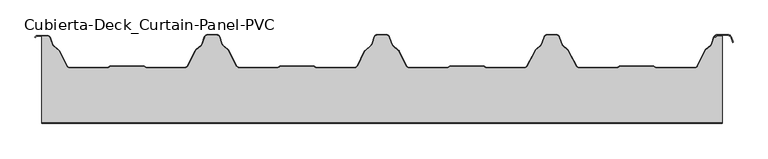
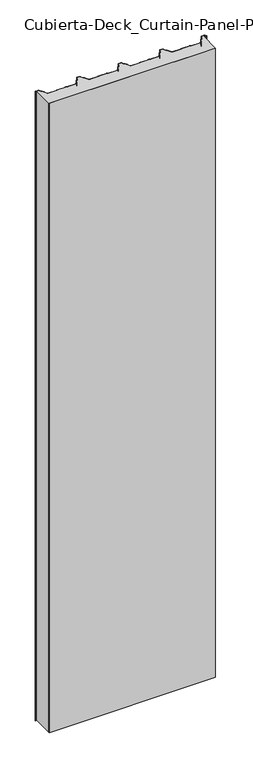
"""IFC4 building model written with IfcOpenShell, lengths in millimetres: plate geometry, Cubierta-Deck_Curtain-Panel-PVC : ACH_Cubierta-Deck_MW_80 mm."""

from ifc_helpers import new_model, si_unit, point, frame_2d, origin, origin_with_axes, place, context, project, spatial, polyline, circle_curve, trimmed, segment, composite_curve, outline, extrude, source, transform, mapped, element, save


def cubierta_deck_curtain_panel_pvc_9965c7ad(model_context):
    return source(origin(), model_context, "Body", "SweptSolid", [
        extrude(outline(composite_curve([segment(polyline([(-349.0135941, -47.2718753), (-348.3934384, -47.892031)]), True, "CONTINUOUS"), segment(trimmed(circle_curve(frame_2d((-346.2014073, -45.7)), 3.1), [point((-348.3934384, -47.892031))], [point((-346.2014073, -48.8))], True, "CARTESIAN"), True, "CONTINUOUS"), segment(polyline([(-346.2014073, -48.8), (-289.4061861, -48.8)]), True, "CONTINUOUS"), segment(trimmed(circle_curve(frame_2d((-289.4061861, -44.5)), 4.3), [point((-289.4061861, -48.8))], [point((-285.5884085, -46.4785284))], True, "CARTESIAN"), True, "CONTINUOUS"), segment(polyline([(-285.5884085, -46.4785284), (-273.6825876, -23.505001)]), True, "CONTINUOUS"), segment(trimmed(circle_curve(frame_2d((-271.1078074, -24.8393573)), 2.9), [point((-273.6825876, -23.505001))], [point((-273.017236, -22.6566795))], False, "CARTESIAN"), True, "CONTINUOUS"), segment(polyline([(-273.017236, -22.6566795), (-265.2497907, -15.8616403)]), True, "CONTINUOUS"), segment(trimmed(circle_curve(frame_2d((-267.290904, -13.5284329)), 3.1), [point((-265.2497907, -15.8616403))], [point((-264.3739053, -14.5777749))], True, "CARTESIAN"), True, "CONTINUOUS"), segment(polyline([(-264.3739053, -14.5777749), (-260.2266586, -3.0491088)]), True, "CONTINUOUS"), segment(trimmed(circle_curve(frame_2d((-257.0273697, -4.2)), 3.4), [point((-260.2266586, -3.0491088))], [point((-257.0273697, -0.8))], False, "CARTESIAN"), True, "CONTINUOUS"), segment(polyline([(-257.0273697, -0.8), (-242.6920972, -0.8)]), True, "CONTINUOUS"), segment(trimmed(circle_curve(frame_2d((-242.6920972, -4.2)), 3.4), [point((-242.6920972, -0.8))], [point((-239.4928083, -3.0491088))], False, "CARTESIAN"), True, "CONTINUOUS"), segment(polyline([(-239.4928083, -3.0491088), (-235.3455616, -14.5777749)]), True, "CONTINUOUS"), segment(trimmed(circle_curve(frame_2d((-232.4285629, -13.5284329)), 3.1), [point((-235.3455616, -14.5777749))], [point((-234.4696761, -15.8616403))], True, "CARTESIAN"), True, "CONTINUOUS"), segment(polyline([(-234.4696761, -15.8616403), (-226.7022309, -22.6566795)]), True, "CONTINUOUS"), segment(trimmed(circle_curve(frame_2d((-228.6116595, -24.8393573)), 2.9), [point((-226.7022309, -22.6566795))], [point((-226.0368792, -23.505001))], False, "CARTESIAN"), True, "CONTINUOUS"), segment(polyline([(-226.0368792, -23.505001), (-214.1310583, -46.4785284)]), True, "CONTINUOUS"), segment(trimmed(circle_curve(frame_2d((-210.3132808, -44.5)), 4.3), [point((-214.1310583, -46.4785284))], [point((-210.3132808, -48.8))], True, "CARTESIAN"), True, "CONTINUOUS"), segment(polyline([(-210.3132808, -48.8), (-153.5333867, -48.8)]), True, "CONTINUOUS"), segment(trimmed(circle_curve(frame_2d((-153.5333867, -45.7)), 3.1), [point((-153.5333867, -48.8))], [point((-151.3413557, -47.892031))], True, "CARTESIAN"), True, "CONTINUOUS"), segment(polyline([(-151.3413557, -47.892031), (-150.7212, -47.2718753)]), True, "CONTINUOUS"), segment(trimmed(circle_curve(frame_2d((-149.0481053, -50.0020238)), 3.2020238), [point((-150.7212, -47.2718753))], [point((-149.0481053, -46.8))], False, "CARTESIAN"), True, "CONTINUOUS"), segment(polyline([(-149.0481053, -46.8), (-101.2020159, -46.8)]), True, "CONTINUOUS"), segment(trimmed(circle_curve(frame_2d((-101.2020159, -50.0020238)), 3.2020238), [point((-101.2020159, -46.8))], [point((-99.5289212, -47.2718753))], False, "CARTESIAN"), True, "CONTINUOUS"), segment(polyline([(-99.5289212, -47.2718753), (-98.9087655, -47.892031)]), True, "CONTINUOUS"), segment(trimmed(circle_curve(frame_2d((-96.7167345, -45.7)), 3.1), [point((-98.9087655, -47.892031))], [point((-96.7167345, -48.8))], True, "CARTESIAN"), True, "CONTINUOUS"), segment(polyline([(-96.7167345, -48.8), (-39.9215133, -48.8)]), True, "CONTINUOUS"), segment(trimmed(circle_curve(frame_2d((-39.9215133, -44.5)), 4.3), [point((-39.9215133, -48.8))], [point((-36.0707148, -46.4134657))], True, "CARTESIAN"), True, "CONTINUOUS"), segment(polyline([(-36.0707148, -46.4134657), (-25.2060392, -24.5485969)]), True, "CONTINUOUS"), segment(trimmed(circle_curve(frame_2d((-22.6089891, -25.8390738)), 2.9), [point((-25.2060392, -24.5485969))], [point((-24.5354625, -23.6714252))], False, "CARTESIAN"), True, "CONTINUOUS"), segment(polyline([(-24.5354625, -23.6714252), (-15.7323582, -15.8477646)]), True, "CONTINUOUS"), segment(trimmed(circle_curve(frame_2d((-17.7916919, -13.530623)), 3.1), [point((-15.7323582, -15.8477646))], [point((-14.8746932, -14.579965))], True, "CARTESIAN"), True, "CONTINUOUS"), segment(polyline([(-14.8746932, -14.579965), (-10.7266586, -3.0491088)]), True, "CONTINUOUS"), segment(trimmed(circle_curve(frame_2d((-7.5273697, -4.2)), 3.4), [point((-10.7266586, -3.0491088))], [point((-7.5273697, -0.8))], False, "CARTESIAN"), True, "CONTINUOUS"), segment(polyline([(-7.5273697, -0.8), (6.8079028, -0.8)]), True, "CONTINUOUS"), segment(trimmed(circle_curve(frame_2d((6.8079028, -4.2)), 3.4), [point((6.8079028, -0.8))], [point((10.0071917, -3.0491088))], False, "CARTESIAN"), True, "CONTINUOUS"), segment(polyline([(10.0071917, -3.0491088), (14.1552263, -14.579965)]), True, "CONTINUOUS"), segment(trimmed(circle_curve(frame_2d((17.072225, -13.530623)), 3.1), [point((14.1552263, -14.579965))], [point((15.0128913, -15.8477646))], True, "CARTESIAN"), True, "CONTINUOUS"), segment(polyline([(15.0128913, -15.8477646), (23.8159956, -23.6714252)]), True, "CONTINUOUS"), segment(trimmed(circle_curve(frame_2d((21.8895222, -25.8390738)), 2.9), [point((23.8159956, -23.6714252))], [point((24.4865724, -24.5485969))], False, "CARTESIAN"), True, "CONTINUOUS"), segment(polyline([(24.4865724, -24.5485969), (35.3512479, -46.4134657)]), True, "CONTINUOUS"), segment(trimmed(circle_curve(frame_2d((39.2020464, -44.5)), 4.3), [point((35.3512479, -46.4134657))], [point((39.2020464, -48.8))], True, "CARTESIAN"), True, "CONTINUOUS"), segment(polyline([(39.2020464, -48.8), (95.9819404, -48.8)]), True, "CONTINUOUS"), segment(trimmed(circle_curve(frame_2d((95.9819404, -45.7)), 3.1), [point((95.9819404, -48.8))], [point((98.1739715, -47.892031))], True, "CARTESIAN"), True, "CONTINUOUS"), segment(polyline([(98.1739715, -47.892031), (98.7941272, -47.2718753)]), True, "CONTINUOUS"), segment(trimmed(circle_curve(frame_2d((100.4672218, -50.0020238)), 3.2020238), [point((98.7941272, -47.2718753))], [point((100.4672218, -46.8))], False, "CARTESIAN"), True, "CONTINUOUS"), segment(polyline([(100.4672218, -46.8), (148.3133113, -46.8)]), True, "CONTINUOUS"), segment(trimmed(circle_curve(frame_2d((148.3133113, -50.0020238)), 3.2020238), [point((148.3133113, -46.8))], [point((149.9864059, -47.2718753))], False, "CARTESIAN"), True, "CONTINUOUS"), segment(polyline([(149.9864059, -47.2718753), (150.6065616, -47.892031)]), True, "CONTINUOUS"), segment(trimmed(circle_curve(frame_2d((152.7985927, -45.7)), 3.1), [point((150.6065616, -47.892031))], [point((152.7985927, -48.8))], True, "CARTESIAN"), True, "CONTINUOUS"), segment(polyline([(152.7985927, -48.8), (209.5938139, -48.8)]), True, "CONTINUOUS"), segment(trimmed(circle_curve(frame_2d((209.5938139, -44.5)), 4.3), [point((209.5938139, -48.8))], [point((213.4115915, -46.4785284))], True, "CARTESIAN"), True, "CONTINUOUS"), segment(polyline([(213.4115915, -46.4785284), (225.3174124, -23.505001)]), True, "CONTINUOUS"), segment(trimmed(circle_curve(frame_2d((227.8921926, -24.8393573)), 2.9), [point((225.3174124, -23.505001))], [point((225.982764, -22.6566795))], False, "CARTESIAN"), True, "CONTINUOUS"), segment(polyline([(225.982764, -22.6566795), (233.7502093, -15.8616403)]), True, "CONTINUOUS"), segment(trimmed(circle_curve(frame_2d((231.709096, -13.5284329)), 3.1), [point((233.7502093, -15.8616403))], [point((234.6260947, -14.5777749))], True, "CARTESIAN"), True, "CONTINUOUS"), segment(polyline([(234.6260947, -14.5777749), (238.7733414, -3.0491088)]), True, "CONTINUOUS"), segment(trimmed(circle_curve(frame_2d((241.9726303, -4.2)), 3.4), [point((238.7733414, -3.0491088))], [point((241.9726303, -0.8))], False, "CARTESIAN"), True, "CONTINUOUS"), segment(polyline([(241.9726303, -0.8), (256.3079028, -0.8)]), True, "CONTINUOUS"), segment(trimmed(circle_curve(frame_2d((256.3079028, -4.2)), 3.4), [point((256.3079028, -0.8))], [point((259.5071917, -3.0491088))], False, "CARTESIAN"), True, "CONTINUOUS"), segment(polyline([(259.5071917, -3.0491088), (263.6544384, -14.5777749)]), True, "CONTINUOUS"), segment(trimmed(circle_curve(frame_2d((266.5714371, -13.5284329)), 3.1), [point((263.6544384, -14.5777749))], [point((264.5303239, -15.8616403))], True, "CARTESIAN"), True, "CONTINUOUS"), segment(polyline([(264.5303239, -15.8616403), (272.2977691, -22.6566795)]), True, "CONTINUOUS"), segment(trimmed(circle_curve(frame_2d((270.3883405, -24.8393573)), 2.9), [point((272.2977691, -22.6566795))], [point((272.9631208, -23.505001))], False, "CARTESIAN"), True, "CONTINUOUS"), segment(polyline([(272.9631208, -23.505001), (284.8689417, -46.4785284)]), True, "CONTINUOUS"), segment(trimmed(circle_curve(frame_2d((288.6867192, -44.5)), 4.3), [point((284.8689417, -46.4785284))], [point((288.6867192, -48.8))], True, "CARTESIAN"), True, "CONTINUOUS"), segment(polyline([(288.6867192, -48.8), (345.4666133, -48.8)]), True, "CONTINUOUS"), segment(trimmed(circle_curve(frame_2d((345.4666133, -45.7)), 3.1), [point((345.4666133, -48.8))], [point((347.6586443, -47.892031))], True, "CARTESIAN"), True, "CONTINUOUS"), segment(polyline([(347.6586443, -47.892031), (348.2788, -47.2718753)]), True, "CONTINUOUS"), segment(trimmed(circle_curve(frame_2d((349.9518947, -50.0020238)), 3.2020238), [point((348.2788, -47.2718753))], [point((349.9518947, -46.8))], False, "CARTESIAN"), True, "CONTINUOUS"), segment(polyline([(349.9518947, -46.8), (397.7979841, -46.8)]), True, "CONTINUOUS"), segment(trimmed(circle_curve(frame_2d((397.7979841, -50.0020238)), 3.2020238), [point((397.7979841, -46.8))], [point((399.4710788, -47.2718753))], False, "CARTESIAN"), True, "CONTINUOUS"), segment(polyline([(399.4710788, -47.2718753), (400.0912345, -47.892031)]), True, "CONTINUOUS"), segment(trimmed(circle_curve(frame_2d((402.2832655, -45.7)), 3.1), [point((400.0912345, -47.892031))], [point((402.2832655, -48.8))], True, "CARTESIAN"), True, "CONTINUOUS"), segment(polyline([(402.2832655, -48.8), (460.084234, -48.8)]), True, "CONTINUOUS"), segment(trimmed(circle_curve(frame_2d((460.084234, -44.5)), 4.3), [point((460.084234, -48.8))], [point((463.9685573, -46.3444599))], True, "CARTESIAN"), True, "CONTINUOUS"), segment(polyline([(463.9685573, -46.3444599), (474.7696963, -23.5979005)]), True, "CONTINUOUS"), segment(trimmed(circle_curve(frame_2d((477.3893563, -24.8418385)), 2.9), [point((474.7696963, -23.5979005))], [point((475.4799277, -22.6591607))], False, "CARTESIAN"), True, "CONTINUOUS"), segment(polyline([(475.4799277, -22.6591607), (483.2502093, -15.8616403)]), True, "CONTINUOUS"), segment(trimmed(circle_curve(frame_2d((481.209096, -13.5284329)), 3.1), [point((483.2502093, -15.8616403))], [point((484.1260947, -14.5777749))], True, "CARTESIAN"), True, "CONTINUOUS"), segment(polyline([(484.1260947, -14.5777749), (488.2177168, -3.2037362), (490.5677139, -4.0491088)]), True, "CONTINUOUS"), segment(trimmed(circle_curve(frame_2d((493.7670027, -5.2)), 3.4), [point((490.5677139, -4.0491088))], [point((493.7670027, -1.8))], False, "CARTESIAN"), True, "CONTINUOUS"), segment(polyline([(493.7670027, -1.8), (500.0, -1.8), (500.0, -128.8), (-500.0, -128.8), (-500.0, -1.8), (-491.8323638, -1.8)]), True, "CONTINUOUS"), segment(trimmed(circle_curve(frame_2d((-491.8323638, -5.2)), 3.4), [point((-491.8323638, -1.8))], [point((-488.6330749, -4.0491088))], False, "CARTESIAN"), True, "CONTINUOUS"), segment(polyline([(-488.6330749, -4.0491088), (-484.8455616, -14.5777749)]), True, "CONTINUOUS"), segment(trimmed(circle_curve(frame_2d((-481.9285629, -13.5284329)), 3.1), [point((-484.8455616, -14.5777749))], [point((-483.9696761, -15.8616403))], True, "CARTESIAN"), True, "CONTINUOUS"), segment(polyline([(-483.9696761, -15.8616403), (-475.3099327, -23.4372709)]), True, "CONTINUOUS"), segment(trimmed(circle_curve(frame_2d((-477.2193612, -25.6199488)), 2.9), [point((-475.3099327, -23.4372709))], [point((-474.6223111, -24.3294719))], False, "CARTESIAN"), True, "CONTINUOUS"), segment(polyline([(-474.6223111, -24.3294719), (-463.6487521, -46.4134657)]), True, "CONTINUOUS"), segment(trimmed(circle_curve(frame_2d((-459.7979536, -44.5)), 4.3), [point((-463.6487521, -46.4134657))], [point((-459.7979536, -48.8))], True, "CARTESIAN"), True, "CONTINUOUS"), segment(polyline([(-459.7979536, -48.8), (-403.0180596, -48.8)]), True, "CONTINUOUS"), segment(trimmed(circle_curve(frame_2d((-403.0180596, -45.7)), 3.1), [point((-403.0180596, -48.8))], [point((-400.8260285, -47.892031))], True, "CARTESIAN"), True, "CONTINUOUS"), segment(polyline([(-400.8260285, -47.892031), (-400.2058728, -47.2718753)]), True, "CONTINUOUS"), segment(trimmed(circle_curve(frame_2d((-398.5327782, -50.0020238)), 3.2020238), [point((-400.2058728, -47.2718753))], [point((-398.5327782, -46.8))], False, "CARTESIAN"), True, "CONTINUOUS"), segment(polyline([(-398.5327782, -46.8), (-350.6866887, -46.8)]), True, "CONTINUOUS"), segment(trimmed(circle_curve(frame_2d((-350.6866887, -50.0020238)), 3.2020238), [point((-350.6866887, -46.8))], [point((-349.0135941, -47.2718753))], False, "CARTESIAN"), True, "CONTINUOUS")], self_intersect=False)), origin_with_axes(), (0.0, 0.0, 1.0), 4000.0),
        extrude(outline(composite_curve([segment(polyline([(-506.1676362, -1.0), (-491.8323638, -1.0)]), True, "CONTINUOUS"), segment(trimmed(circle_curve(frame_2d((-491.8323638, -5.2)), 4.2), [point((-491.8323638, -1.0))], [point((-487.880301, -3.7783109))], False, "CARTESIAN"), True, "CONTINUOUS"), segment(polyline([(-487.880301, -3.7783109), (-484.0927877, -14.3069769)]), True, "CONTINUOUS"), segment(trimmed(circle_curve(frame_2d((-481.9285629, -13.5284329)), 2.3), [point((-484.0927877, -14.3069769))], [point((-483.4429372, -15.2595222))], True, "CARTESIAN"), True, "CONTINUOUS"), segment(polyline([(-483.4429372, -15.2595222), (-474.7831938, -22.8351529)]), True, "CONTINUOUS"), segment(trimmed(circle_curve(frame_2d((-477.2193612, -25.6199488)), 3.7), [point((-474.7831938, -22.8351529))], [point((-473.9058834, -23.9734783))], False, "CARTESIAN"), True, "CONTINUOUS"), segment(polyline([(-473.9058834, -23.9734783), (-462.9323245, -46.0574721)]), True, "CONTINUOUS"), segment(trimmed(circle_curve(frame_2d((-459.7979536, -44.5)), 3.5), [point((-462.9323245, -46.0574721))], [point((-459.7979536, -48.0))], True, "CARTESIAN"), True, "CONTINUOUS"), segment(polyline([(-459.7979536, -48.0), (-403.0180596, -48.0)]), True, "CONTINUOUS"), segment(trimmed(circle_curve(frame_2d((-403.0180596, -45.7)), 2.3), [point((-403.0180596, -48.0))], [point((-401.391714, -47.3263456))], True, "CARTESIAN"), True, "CONTINUOUS"), segment(polyline([(-401.391714, -47.3263456), (-400.7083848, -46.6430165)]), True, "CONTINUOUS"), segment(trimmed(circle_curve(frame_2d((-398.5327782, -50.0020238)), 4.0020238), [point((-400.7083848, -46.6430165))], [point((-398.5327782, -46.0))], False, "CARTESIAN"), True, "CONTINUOUS"), segment(polyline([(-398.5327782, -46.0), (-350.6866887, -46.0)]), True, "CONTINUOUS"), segment(trimmed(circle_curve(frame_2d((-350.6866887, -50.0020238)), 4.0020238), [point((-350.6866887, -46.0))], [point((-348.511082, -46.6430165))], False, "CARTESIAN"), True, "CONTINUOUS"), segment(polyline([(-348.511082, -46.6430165), (-347.8277529, -47.3263456)]), True, "CONTINUOUS"), segment(trimmed(circle_curve(frame_2d((-346.2014073, -45.7)), 2.3), [point((-347.8277529, -47.3263456))], [point((-346.2014073, -48.0))], True, "CARTESIAN"), True, "CONTINUOUS"), segment(polyline([(-346.2014073, -48.0), (-289.4061861, -48.0)]), True, "CONTINUOUS"), segment(trimmed(circle_curve(frame_2d((-289.4061861, -44.5)), 3.5), [point((-289.4061861, -48.0))], [point((-286.2986927, -46.1104301))], True, "CARTESIAN"), True, "CONTINUOUS"), segment(polyline([(-286.2986927, -46.1104301), (-274.3928718, -23.1369027)]), True, "CONTINUOUS"), segment(trimmed(circle_curve(frame_2d((-271.1078074, -24.8393573)), 3.7), [point((-274.3928718, -23.1369027))], [point((-273.5439749, -22.0545614))], False, "CARTESIAN"), True, "CONTINUOUS"), segment(polyline([(-273.5439749, -22.0545614), (-265.7765297, -15.2595222)]), True, "CONTINUOUS"), segment(trimmed(circle_curve(frame_2d((-267.290904, -13.5284329)), 2.3), [point((-265.7765297, -15.2595222))], [point((-265.1266792, -14.3069769))], True, "CARTESIAN"), True, "CONTINUOUS"), segment(polyline([(-265.1266792, -14.3069769), (-260.9794324, -2.7783109)]), True, "CONTINUOUS"), segment(trimmed(circle_curve(frame_2d((-257.0273697, -4.2)), 4.2), [point((-260.9794324, -2.7783109))], [point((-257.0273697, 0.0))], False, "CARTESIAN"), True, "CONTINUOUS"), segment(polyline([(-257.0273697, 0.0), (-242.6920972, 0.0)]), True, "CONTINUOUS"), segment(trimmed(circle_curve(frame_2d((-242.6920972, -4.2)), 4.2), [point((-242.6920972, 0.0))], [point((-238.7400345, -2.7783109))], False, "CARTESIAN"), True, "CONTINUOUS"), segment(polyline([(-238.7400345, -2.7783109), (-234.5927877, -14.3069769)]), True, "CONTINUOUS"), segment(trimmed(circle_curve(frame_2d((-232.4285629, -13.5284329)), 2.3), [point((-234.5927877, -14.3069769))], [point((-233.9429372, -15.2595222))], True, "CARTESIAN"), True, "CONTINUOUS"), segment(polyline([(-233.9429372, -15.2595222), (-226.175492, -22.0545614)]), True, "CONTINUOUS"), segment(trimmed(circle_curve(frame_2d((-228.6116595, -24.8393573)), 3.7), [point((-226.175492, -22.0545614))], [point((-225.326595, -23.1369027))], False, "CARTESIAN"), True, "CONTINUOUS"), segment(polyline([(-225.326595, -23.1369027), (-213.4207742, -46.1104301)]), True, "CONTINUOUS"), segment(trimmed(circle_curve(frame_2d((-210.3132808, -44.5)), 3.5), [point((-213.4207742, -46.1104301))], [point((-210.3132808, -48.0))], True, "CARTESIAN"), True, "CONTINUOUS"), segment(polyline([(-210.3132808, -48.0), (-153.5333867, -48.0)]), True, "CONTINUOUS"), segment(trimmed(circle_curve(frame_2d((-153.5333867, -45.7)), 2.3), [point((-153.5333867, -48.0))], [point((-151.9070411, -47.3263456))], True, "CARTESIAN"), True, "CONTINUOUS"), segment(polyline([(-151.9070411, -47.3263456), (-151.223712, -46.6430165)]), True, "CONTINUOUS"), segment(trimmed(circle_curve(frame_2d((-149.0481053, -50.0020238)), 4.0020238), [point((-151.223712, -46.6430165))], [point((-149.0481053, -46.0))], False, "CARTESIAN"), True, "CONTINUOUS"), segment(polyline([(-149.0481053, -46.0), (-101.2020159, -46.0)]), True, "CONTINUOUS"), segment(trimmed(circle_curve(frame_2d((-101.2020159, -50.0020238)), 4.0020238), [point((-101.2020159, -46.0))], [point((-99.0264092, -46.6430165))], False, "CARTESIAN"), True, "CONTINUOUS"), segment(polyline([(-99.0264092, -46.6430165), (-98.3430801, -47.3263456)]), True, "CONTINUOUS"), segment(trimmed(circle_curve(frame_2d((-96.7167345, -45.7)), 2.3), [point((-98.3430801, -47.3263456))], [point((-96.7167345, -48.0))], True, "CARTESIAN"), True, "CONTINUOUS"), segment(polyline([(-96.7167345, -48.0), (-39.9215133, -48.0)]), True, "CONTINUOUS"), segment(trimmed(circle_curve(frame_2d((-39.9215133, -44.5)), 3.5), [point((-39.9215133, -48.0))], [point((-36.7871424, -46.0574721))], True, "CARTESIAN"), True, "CONTINUOUS"), segment(polyline([(-36.7871424, -46.0574721), (-25.9224669, -24.1926033)]), True, "CONTINUOUS"), segment(trimmed(circle_curve(frame_2d((-22.6089891, -25.8390738)), 3.7), [point((-25.9224669, -24.1926033))], [point((-25.0669035, -23.0734532))], False, "CARTESIAN"), True, "CONTINUOUS"), segment(polyline([(-25.0669035, -23.0734532), (-16.2637992, -15.2497926)]), True, "CONTINUOUS"), segment(trimmed(circle_curve(frame_2d((-17.7916919, -13.530623)), 2.3), [point((-16.2637992, -15.2497926))], [point((-15.627467, -14.3091671))], True, "CARTESIAN"), True, "CONTINUOUS"), segment(polyline([(-15.627467, -14.3091671), (-11.4794324, -2.7783109)]), True, "CONTINUOUS"), segment(trimmed(circle_curve(frame_2d((-7.5273697, -4.2)), 4.2), [point((-11.4794324, -2.7783109))], [point((-7.5273697, 0.0))], False, "CARTESIAN"), True, "CONTINUOUS"), segment(polyline([(-7.5273697, 0.0), (6.8079028, 0.0)]), True, "CONTINUOUS"), segment(trimmed(circle_curve(frame_2d((6.8079028, -4.2)), 4.2), [point((6.8079028, 0.0))], [point((10.7599655, -2.7783109))], False, "CARTESIAN"), True, "CONTINUOUS"), segment(polyline([(10.7599655, -2.7783109), (14.9080002, -14.3091671)]), True, "CONTINUOUS"), segment(trimmed(circle_curve(frame_2d((17.072225, -13.530623)), 2.3), [point((14.9080002, -14.3091671))], [point((15.5443323, -15.2497926))], True, "CARTESIAN"), True, "CONTINUOUS"), segment(polyline([(15.5443323, -15.2497926), (24.3474366, -23.0734532)]), True, "CONTINUOUS"), segment(trimmed(circle_curve(frame_2d((21.8895222, -25.8390738)), 3.7), [point((24.3474366, -23.0734532))], [point((25.203, -24.1926033))], False, "CARTESIAN"), True, "CONTINUOUS"), segment(polyline([(25.203, -24.1926033), (36.0676755, -46.0574721)]), True, "CONTINUOUS"), segment(trimmed(circle_curve(frame_2d((39.2020464, -44.5)), 3.5), [point((36.0676755, -46.0574721))], [point((39.2020464, -48.0))], True, "CARTESIAN"), True, "CONTINUOUS"), segment(polyline([(39.2020464, -48.0), (95.9819404, -48.0)]), True, "CONTINUOUS"), segment(trimmed(circle_curve(frame_2d((95.9819404, -45.7)), 2.3), [point((95.9819404, -48.0))], [point((97.608286, -47.3263456))], True, "CARTESIAN"), True, "CONTINUOUS"), segment(polyline([(97.608286, -47.3263456), (98.2916152, -46.6430165)]), True, "CONTINUOUS"), segment(trimmed(circle_curve(frame_2d((100.4672218, -50.0020238)), 4.0020238), [point((98.2916152, -46.6430165))], [point((100.4672218, -46.0))], False, "CARTESIAN"), True, "CONTINUOUS"), segment(polyline([(100.4672218, -46.0), (148.3133113, -46.0)]), True, "CONTINUOUS"), segment(trimmed(circle_curve(frame_2d((148.3133113, -50.0020238)), 4.0020238), [point((148.3133113, -46.0))], [point((150.488918, -46.6430165))], False, "CARTESIAN"), True, "CONTINUOUS"), segment(polyline([(150.488918, -46.6430165), (151.1722471, -47.3263456)]), True, "CONTINUOUS"), segment(trimmed(circle_curve(frame_2d((152.7985927, -45.7)), 2.3), [point((151.1722471, -47.3263456))], [point((152.7985927, -48.0))], True, "CARTESIAN"), True, "CONTINUOUS"), segment(polyline([(152.7985927, -48.0), (209.5938139, -48.0)]), True, "CONTINUOUS"), segment(trimmed(circle_curve(frame_2d((209.5938139, -44.5)), 3.5), [point((209.5938139, -48.0))], [point((212.7013073, -46.1104301))], True, "CARTESIAN"), True, "CONTINUOUS"), segment(polyline([(212.7013073, -46.1104301), (224.6071282, -23.1369027)]), True, "CONTINUOUS"), segment(trimmed(circle_curve(frame_2d((227.8921926, -24.8393573)), 3.7), [point((224.6071282, -23.1369027))], [point((225.4560251, -22.0545614))], False, "CARTESIAN"), True, "CONTINUOUS"), segment(polyline([(225.4560251, -22.0545614), (233.2234703, -15.2595222)]), True, "CONTINUOUS"), segment(trimmed(circle_curve(frame_2d((231.709096, -13.5284329)), 2.3), [point((233.2234703, -15.2595222))], [point((233.8733208, -14.3069769))], True, "CARTESIAN"), True, "CONTINUOUS"), segment(polyline([(233.8733208, -14.3069769), (238.0205676, -2.7783109)]), True, "CONTINUOUS"), segment(trimmed(circle_curve(frame_2d((241.9726303, -4.2)), 4.2), [point((238.0205676, -2.7783109))], [point((241.9726303, 0.0))], False, "CARTESIAN"), True, "CONTINUOUS"), segment(polyline([(241.9726303, 0.0), (256.3079028, 0.0)]), True, "CONTINUOUS"), segment(trimmed(circle_curve(frame_2d((256.3079028, -4.2)), 4.2), [point((256.3079028, 0.0))], [point((260.2599655, -2.7783109))], False, "CARTESIAN"), True, "CONTINUOUS"), segment(polyline([(260.2599655, -2.7783109), (264.4072123, -14.3069769)]), True, "CONTINUOUS"), segment(trimmed(circle_curve(frame_2d((266.5714371, -13.5284329)), 2.3), [point((264.4072123, -14.3069769))], [point((265.0570628, -15.2595222))], True, "CARTESIAN"), True, "CONTINUOUS"), segment(polyline([(265.0570628, -15.2595222), (272.824508, -22.0545614)]), True, "CONTINUOUS"), segment(trimmed(circle_curve(frame_2d((270.3883405, -24.8393573)), 3.7), [point((272.824508, -22.0545614))], [point((273.673405, -23.1369027))], False, "CARTESIAN"), True, "CONTINUOUS"), segment(polyline([(273.673405, -23.1369027), (285.5792258, -46.1104301)]), True, "CONTINUOUS"), segment(trimmed(circle_curve(frame_2d((288.6867192, -44.5)), 3.5), [point((285.5792258, -46.1104301))], [point((288.6867192, -48.0))], True, "CARTESIAN"), True, "CONTINUOUS"), segment(polyline([(288.6867192, -48.0), (345.4666133, -48.0)]), True, "CONTINUOUS"), segment(trimmed(circle_curve(frame_2d((345.4666133, -45.7)), 2.3), [point((345.4666133, -48.0))], [point((347.0929589, -47.3263456))], True, "CARTESIAN"), True, "CONTINUOUS"), segment(polyline([(347.0929589, -47.3263456), (347.776288, -46.6430165)]), True, "CONTINUOUS"), segment(trimmed(circle_curve(frame_2d((349.9518947, -50.0020238)), 4.0020238), [point((347.776288, -46.6430165))], [point((349.9518947, -46.0))], False, "CARTESIAN"), True, "CONTINUOUS"), segment(polyline([(349.9518947, -46.0), (397.7979841, -46.0)]), True, "CONTINUOUS"), segment(trimmed(circle_curve(frame_2d((397.7979841, -50.0020238)), 4.0020238), [point((397.7979841, -46.0))], [point((399.9735908, -46.6430165))], False, "CARTESIAN"), True, "CONTINUOUS"), segment(polyline([(399.9735908, -46.6430165), (400.6569199, -47.3263456)]), True, "CONTINUOUS"), segment(trimmed(circle_curve(frame_2d((402.2832655, -45.7)), 2.3), [point((400.6569199, -47.3263456))], [point((402.2832655, -48.0))], True, "CARTESIAN"), True, "CONTINUOUS"), segment(polyline([(402.2832655, -48.0), (460.084234, -48.0)]), True, "CONTINUOUS"), segment(trimmed(circle_curve(frame_2d((460.084234, -44.5)), 3.5), [point((460.084234, -48.0))], [point((463.2458925, -46.0013046))], True, "CARTESIAN"), True, "CONTINUOUS"), segment(polyline([(463.2458925, -46.0013046), (474.0470315, -23.2547451)]), True, "CONTINUOUS"), segment(trimmed(circle_curve(frame_2d((477.3893563, -24.8418385)), 3.7), [point((474.0470315, -23.2547451))], [point((474.9531888, -22.0570426))], False, "CARTESIAN"), True, "CONTINUOUS"), segment(polyline([(474.9531888, -22.0570426), (482.7234703, -15.2595222)]), True, "CONTINUOUS"), segment(trimmed(circle_curve(frame_2d((481.209096, -13.5284329)), 2.3), [point((482.7234703, -15.2595222))], [point((483.3733208, -14.3069769))], True, "CARTESIAN"), True, "CONTINUOUS"), segment(polyline([(483.3733208, -14.3069769), (487.5205676, -2.7783109)]), True, "CONTINUOUS"), segment(trimmed(circle_curve(frame_2d((491.4726303, -4.2)), 4.2), [point((487.5205676, -2.7783109))], [point((491.4726303, 0.0))], False, "CARTESIAN"), True, "CONTINUOUS"), segment(polyline([(491.4726303, 0.0), (508.6580917, 0.0)]), True, "CONTINUOUS"), segment(trimmed(circle_curve(frame_2d((508.6580917, -4.2)), 4.2), [point((508.6580917, 0.0))], [point((512.6101545, -2.7783109))], False, "CARTESIAN"), True, "CONTINUOUS"), segment(polyline([(512.6101545, -2.7783109), (515.5925551, -11.0688956), (514.8397812, -11.3396935), (511.8573806, -3.0491088)]), True, "CONTINUOUS"), segment(trimmed(circle_curve(frame_2d((508.6580917, -4.2)), 3.4), [point((511.8573806, -3.0491088))], [point((508.6580917, -0.8))], True, "CARTESIAN"), True, "CONTINUOUS"), segment(polyline([(508.6580917, -0.8), (491.4726303, -0.8)]), True, "CONTINUOUS"), segment(trimmed(circle_curve(frame_2d((491.4726303, -4.2)), 3.4), [point((491.4726303, -0.8))], [point((488.2733414, -3.0491088))], True, "CARTESIAN"), True, "CONTINUOUS"), segment(polyline([(488.2733414, -3.0491088), (484.1260947, -14.5777749)]), True, "CONTINUOUS"), segment(trimmed(circle_curve(frame_2d((481.209096, -13.5284329)), 3.1), [point((484.1260947, -14.5777749))], [point((483.2502093, -15.8616403))], False, "CARTESIAN"), True, "CONTINUOUS"), segment(polyline([(483.2502093, -15.8616403), (475.4799277, -22.6591607)]), True, "CONTINUOUS"), segment(trimmed(circle_curve(frame_2d((477.3893563, -24.8418385)), 2.9), [point((475.4799277, -22.6591607))], [point((474.7696963, -23.5979005))], True, "CARTESIAN"), True, "CONTINUOUS"), segment(polyline([(474.7696963, -23.5979005), (463.9685573, -46.3444599)]), True, "CONTINUOUS"), segment(trimmed(circle_curve(frame_2d((460.084234, -44.5)), 4.3), [point((463.9685573, -46.3444599))], [point((460.084234, -48.8))], False, "CARTESIAN"), True, "CONTINUOUS"), segment(polyline([(460.084234, -48.8), (402.2832655, -48.8)]), True, "CONTINUOUS"), segment(trimmed(circle_curve(frame_2d((402.2832655, -45.7)), 3.1), [point((402.2832655, -48.8))], [point((400.0912345, -47.892031))], False, "CARTESIAN"), True, "CONTINUOUS"), segment(polyline([(400.0912345, -47.892031), (399.4710788, -47.2718753)]), True, "CONTINUOUS"), segment(trimmed(circle_curve(frame_2d((397.7979841, -50.0020238)), 3.2020238), [point((399.4710788, -47.2718753))], [point((397.7979841, -46.8))], True, "CARTESIAN"), True, "CONTINUOUS"), segment(polyline([(397.7979841, -46.8), (349.9518947, -46.8)]), True, "CONTINUOUS"), segment(trimmed(circle_curve(frame_2d((349.9518947, -50.0020238)), 3.2020238), [point((349.9518947, -46.8))], [point((348.2788, -47.2718753))], True, "CARTESIAN"), True, "CONTINUOUS"), segment(polyline([(348.2788, -47.2718753), (347.6586443, -47.892031)]), True, "CONTINUOUS"), segment(trimmed(circle_curve(frame_2d((345.4666133, -45.7)), 3.1), [point((347.6586443, -47.892031))], [point((345.4666133, -48.8))], False, "CARTESIAN"), True, "CONTINUOUS"), segment(polyline([(345.4666133, -48.8), (288.6867192, -48.8)]), True, "CONTINUOUS"), segment(trimmed(circle_curve(frame_2d((288.6867192, -44.5)), 4.3), [point((288.6867192, -48.8))], [point((284.8689417, -46.4785284))], False, "CARTESIAN"), True, "CONTINUOUS"), segment(polyline([(284.8689417, -46.4785284), (272.9631208, -23.505001)]), True, "CONTINUOUS"), segment(trimmed(circle_curve(frame_2d((270.3883405, -24.8393573)), 2.9), [point((272.9631208, -23.505001))], [point((272.2977691, -22.6566795))], True, "CARTESIAN"), True, "CONTINUOUS"), segment(polyline([(272.2977691, -22.6566795), (264.5303239, -15.8616403)]), True, "CONTINUOUS"), segment(trimmed(circle_curve(frame_2d((266.5714371, -13.5284329)), 3.1), [point((264.5303239, -15.8616403))], [point((263.6544384, -14.5777749))], False, "CARTESIAN"), True, "CONTINUOUS"), segment(polyline([(263.6544384, -14.5777749), (259.5071917, -3.0491088)]), True, "CONTINUOUS"), segment(trimmed(circle_curve(frame_2d((256.3079028, -4.2)), 3.4), [point((259.5071917, -3.0491088))], [point((256.3079028, -0.8))], True, "CARTESIAN"), True, "CONTINUOUS"), segment(polyline([(256.3079028, -0.8), (241.9726303, -0.8)]), True, "CONTINUOUS"), segment(trimmed(circle_curve(frame_2d((241.9726303, -4.2)), 3.4), [point((241.9726303, -0.8))], [point((238.7733414, -3.0491088))], True, "CARTESIAN"), True, "CONTINUOUS"), segment(polyline([(238.7733414, -3.0491088), (234.6260947, -14.5777749)]), True, "CONTINUOUS"), segment(trimmed(circle_curve(frame_2d((231.709096, -13.5284329)), 3.1), [point((234.6260947, -14.5777749))], [point((233.7502093, -15.8616403))], False, "CARTESIAN"), True, "CONTINUOUS"), segment(polyline([(233.7502093, -15.8616403), (225.982764, -22.6566795)]), True, "CONTINUOUS"), segment(trimmed(circle_curve(frame_2d((227.8921926, -24.8393573)), 2.9), [point((225.982764, -22.6566795))], [point((225.3174124, -23.505001))], True, "CARTESIAN"), True, "CONTINUOUS"), segment(polyline([(225.3174124, -23.505001), (213.4115915, -46.4785284)]), True, "CONTINUOUS"), segment(trimmed(circle_curve(frame_2d((209.5938139, -44.5)), 4.3), [point((213.4115915, -46.4785284))], [point((209.5938139, -48.8))], False, "CARTESIAN"), True, "CONTINUOUS"), segment(polyline([(209.5938139, -48.8), (152.7985927, -48.8)]), True, "CONTINUOUS"), segment(trimmed(circle_curve(frame_2d((152.7985927, -45.7)), 3.1), [point((152.7985927, -48.8))], [point((150.6065616, -47.892031))], False, "CARTESIAN"), True, "CONTINUOUS"), segment(polyline([(150.6065616, -47.892031), (149.9864059, -47.2718753)]), True, "CONTINUOUS"), segment(trimmed(circle_curve(frame_2d((148.3133113, -50.0020238)), 3.2020238), [point((149.9864059, -47.2718753))], [point((148.3133113, -46.8))], True, "CARTESIAN"), True, "CONTINUOUS"), segment(polyline([(148.3133113, -46.8), (100.4672218, -46.8)]), True, "CONTINUOUS"), segment(trimmed(circle_curve(frame_2d((100.4672218, -50.0020238)), 3.2020238), [point((100.4672218, -46.8))], [point((98.7941272, -47.2718753))], True, "CARTESIAN"), True, "CONTINUOUS"), segment(polyline([(98.7941272, -47.2718753), (98.1739715, -47.892031)]), True, "CONTINUOUS"), segment(trimmed(circle_curve(frame_2d((95.9819404, -45.7)), 3.1), [point((98.1739715, -47.892031))], [point((95.9819404, -48.8))], False, "CARTESIAN"), True, "CONTINUOUS"), segment(polyline([(95.9819404, -48.8), (39.2020464, -48.8)]), True, "CONTINUOUS"), segment(trimmed(circle_curve(frame_2d((39.2020464, -44.5)), 4.3), [point((39.2020464, -48.8))], [point((35.3512479, -46.4134657))], False, "CARTESIAN"), True, "CONTINUOUS"), segment(polyline([(35.3512479, -46.4134657), (24.4865724, -24.5485969)]), True, "CONTINUOUS"), segment(trimmed(circle_curve(frame_2d((21.8895222, -25.8390738)), 2.9), [point((24.4865724, -24.5485969))], [point((23.8159956, -23.6714252))], True, "CARTESIAN"), True, "CONTINUOUS"), segment(polyline([(23.8159956, -23.6714252), (15.0128913, -15.8477646)]), True, "CONTINUOUS"), segment(trimmed(circle_curve(frame_2d((17.072225, -13.530623)), 3.1), [point((15.0128913, -15.8477646))], [point((14.1552263, -14.579965))], False, "CARTESIAN"), True, "CONTINUOUS"), segment(polyline([(14.1552263, -14.579965), (10.0071917, -3.0491088)]), True, "CONTINUOUS"), segment(trimmed(circle_curve(frame_2d((6.8079028, -4.2)), 3.4), [point((10.0071917, -3.0491088))], [point((6.8079028, -0.8))], True, "CARTESIAN"), True, "CONTINUOUS"), segment(polyline([(6.8079028, -0.8), (-7.5273697, -0.8)]), True, "CONTINUOUS"), segment(trimmed(circle_curve(frame_2d((-7.5273697, -4.2)), 3.4), [point((-7.5273697, -0.8))], [point((-10.7266586, -3.0491088))], True, "CARTESIAN"), True, "CONTINUOUS"), segment(polyline([(-10.7266586, -3.0491088), (-14.8746932, -14.579965)]), True, "CONTINUOUS"), segment(trimmed(circle_curve(frame_2d((-17.7916919, -13.530623)), 3.1), [point((-14.8746932, -14.579965))], [point((-15.7323582, -15.8477646))], False, "CARTESIAN"), True, "CONTINUOUS"), segment(polyline([(-15.7323582, -15.8477646), (-24.5354625, -23.6714252)]), True, "CONTINUOUS"), segment(trimmed(circle_curve(frame_2d((-22.6089891, -25.8390738)), 2.9), [point((-24.5354625, -23.6714252))], [point((-25.2060392, -24.5485969))], True, "CARTESIAN"), True, "CONTINUOUS"), segment(polyline([(-25.2060392, -24.5485969), (-36.0707148, -46.4134657)]), True, "CONTINUOUS"), segment(trimmed(circle_curve(frame_2d((-39.9215133, -44.5)), 4.3), [point((-36.0707148, -46.4134657))], [point((-39.9215133, -48.8))], False, "CARTESIAN"), True, "CONTINUOUS"), segment(polyline([(-39.9215133, -48.8), (-96.7167345, -48.8)]), True, "CONTINUOUS"), segment(trimmed(circle_curve(frame_2d((-96.7167345, -45.7)), 3.1), [point((-96.7167345, -48.8))], [point((-98.9087655, -47.892031))], False, "CARTESIAN"), True, "CONTINUOUS"), segment(polyline([(-98.9087655, -47.892031), (-99.5289212, -47.2718753)]), True, "CONTINUOUS"), segment(trimmed(circle_curve(frame_2d((-101.2020159, -50.0020238)), 3.2020238), [point((-99.5289212, -47.2718753))], [point((-101.2020159, -46.8))], True, "CARTESIAN"), True, "CONTINUOUS"), segment(polyline([(-101.2020159, -46.8), (-149.0481053, -46.8)]), True, "CONTINUOUS"), segment(trimmed(circle_curve(frame_2d((-149.0481053, -50.0020238)), 3.2020238), [point((-149.0481053, -46.8))], [point((-150.7212, -47.2718753))], True, "CARTESIAN"), True, "CONTINUOUS"), segment(polyline([(-150.7212, -47.2718753), (-151.3413557, -47.892031)]), True, "CONTINUOUS"), segment(trimmed(circle_curve(frame_2d((-153.5333867, -45.7)), 3.1), [point((-151.3413557, -47.892031))], [point((-153.5333867, -48.8))], False, "CARTESIAN"), True, "CONTINUOUS"), segment(polyline([(-153.5333867, -48.8), (-210.3132808, -48.8)]), True, "CONTINUOUS"), segment(trimmed(circle_curve(frame_2d((-210.3132808, -44.5)), 4.3), [point((-210.3132808, -48.8))], [point((-214.1310583, -46.4785284))], False, "CARTESIAN"), True, "CONTINUOUS"), segment(polyline([(-214.1310583, -46.4785284), (-226.0368792, -23.505001)]), True, "CONTINUOUS"), segment(trimmed(circle_curve(frame_2d((-228.6116595, -24.8393573)), 2.9), [point((-226.0368792, -23.505001))], [point((-226.7022309, -22.6566795))], True, "CARTESIAN"), True, "CONTINUOUS"), segment(polyline([(-226.7022309, -22.6566795), (-234.4696761, -15.8616403)]), True, "CONTINUOUS"), segment(trimmed(circle_curve(frame_2d((-232.4285629, -13.5284329)), 3.1), [point((-234.4696761, -15.8616403))], [point((-235.3455616, -14.5777749))], False, "CARTESIAN"), True, "CONTINUOUS"), segment(polyline([(-235.3455616, -14.5777749), (-239.4928083, -3.0491088)]), True, "CONTINUOUS"), segment(trimmed(circle_curve(frame_2d((-242.6920972, -4.2)), 3.4), [point((-239.4928083, -3.0491088))], [point((-242.6920972, -0.8))], True, "CARTESIAN"), True, "CONTINUOUS"), segment(polyline([(-242.6920972, -0.8), (-257.0273697, -0.8)]), True, "CONTINUOUS"), segment(trimmed(circle_curve(frame_2d((-257.0273697, -4.2)), 3.4), [point((-257.0273697, -0.8))], [point((-260.2266586, -3.0491088))], True, "CARTESIAN"), True, "CONTINUOUS"), segment(polyline([(-260.2266586, -3.0491088), (-264.3739053, -14.5777749)]), True, "CONTINUOUS"), segment(trimmed(circle_curve(frame_2d((-267.290904, -13.5284329)), 3.1), [point((-264.3739053, -14.5777749))], [point((-265.2497907, -15.8616403))], False, "CARTESIAN"), True, "CONTINUOUS"), segment(polyline([(-265.2497907, -15.8616403), (-273.017236, -22.6566795)]), True, "CONTINUOUS"), segment(trimmed(circle_curve(frame_2d((-271.1078074, -24.8393573)), 2.9), [point((-273.017236, -22.6566795))], [point((-273.6825876, -23.505001))], True, "CARTESIAN"), True, "CONTINUOUS"), segment(polyline([(-273.6825876, -23.505001), (-285.5884085, -46.4785284)]), True, "CONTINUOUS"), segment(trimmed(circle_curve(frame_2d((-289.4061861, -44.5)), 4.3), [point((-285.5884085, -46.4785284))], [point((-289.4061861, -48.8))], False, "CARTESIAN"), True, "CONTINUOUS"), segment(polyline([(-289.4061861, -48.8), (-346.2014073, -48.8)]), True, "CONTINUOUS"), segment(trimmed(circle_curve(frame_2d((-346.2014073, -45.7)), 3.1), [point((-346.2014073, -48.8))], [point((-348.3934384, -47.892031))], False, "CARTESIAN"), True, "CONTINUOUS"), segment(polyline([(-348.3934384, -47.892031), (-349.0135941, -47.2718753)]), True, "CONTINUOUS"), segment(trimmed(circle_curve(frame_2d((-350.6866887, -50.0020238)), 3.2020238), [point((-349.0135941, -47.2718753))], [point((-350.6866887, -46.8))], True, "CARTESIAN"), True, "CONTINUOUS"), segment(polyline([(-350.6866887, -46.8), (-398.5327782, -46.8)]), True, "CONTINUOUS"), segment(trimmed(circle_curve(frame_2d((-398.5327782, -50.0020238)), 3.2020238), [point((-398.5327782, -46.8))], [point((-400.2058728, -47.2718753))], True, "CARTESIAN"), True, "CONTINUOUS"), segment(polyline([(-400.2058728, -47.2718753), (-400.8260285, -47.892031)]), True, "CONTINUOUS"), segment(trimmed(circle_curve(frame_2d((-403.0180596, -45.7)), 3.1), [point((-400.8260285, -47.892031))], [point((-403.0180596, -48.8))], False, "CARTESIAN"), True, "CONTINUOUS"), segment(polyline([(-403.0180596, -48.8), (-459.7979536, -48.8)]), True, "CONTINUOUS"), segment(trimmed(circle_curve(frame_2d((-459.7979536, -44.5)), 4.3), [point((-459.7979536, -48.8))], [point((-463.6487521, -46.4134657))], False, "CARTESIAN"), True, "CONTINUOUS"), segment(polyline([(-463.6487521, -46.4134657), (-474.6223111, -24.3294719)]), True, "CONTINUOUS"), segment(trimmed(circle_curve(frame_2d((-477.2193612, -25.6199488)), 2.9), [point((-474.6223111, -24.3294719))], [point((-475.3099327, -23.4372709))], True, "CARTESIAN"), True, "CONTINUOUS"), segment(polyline([(-475.3099327, -23.4372709), (-483.9696761, -15.8616403)]), True, "CONTINUOUS"), segment(trimmed(circle_curve(frame_2d((-481.9285629, -13.5284329)), 3.1), [point((-483.9696761, -15.8616403))], [point((-484.8455616, -14.5777749))], False, "CARTESIAN"), True, "CONTINUOUS"), segment(polyline([(-484.8455616, -14.5777749), (-488.6330749, -4.0491088)]), True, "CONTINUOUS"), segment(trimmed(circle_curve(frame_2d((-491.8323638, -5.2)), 3.4), [point((-488.6330749, -4.0491088))], [point((-491.8323638, -1.8))], True, "CARTESIAN"), True, "CONTINUOUS"), segment(polyline([(-491.8323638, -1.8), (-506.1676362, -1.8)]), True, "CONTINUOUS"), segment(trimmed(circle_curve(frame_2d((-506.1676362, -5.2)), 3.4), [point((-506.1676362, -1.8))], [point((-509.3669251, -4.0491088))], True, "CARTESIAN"), True, "CONTINUOUS"), segment(polyline([(-509.3669251, -4.0491088), (-510.119699, -3.7783109)]), True, "CONTINUOUS"), segment(trimmed(circle_curve(frame_2d((-506.1676362, -5.2)), 4.2), [point((-510.119699, -3.7783109))], [point((-506.1676362, -1.0))], False, "CARTESIAN"), True, "CONTINUOUS")], self_intersect=False)), origin_with_axes(), (0.0, 0.0, 1.0), 4000.0),
        extrude(outline(polyline([(500.0, -128.8), (500.0, -130.8), (-500.0, -130.8), (-500.0, -128.8), (500.0, -128.8)])), origin_with_axes(), (0.0, 0.0, 1.0), 4000.0),
    ])


if __name__ == "__main__":
    model = new_model("IFC4")
    model_context = context("Model", 3, world=origin())
    ifc_project = project(units=[si_unit("LENGTHUNIT", "METRE", prefix="MILLI")], contexts=[model_context])
    site = spatial("IfcSite", under=ifc_project)
    building = spatial("IfcBuilding", under=site)
    placement = place(None, origin())
    cubierta_deck_curtain_panel_pvc_shape = cubierta_deck_curtain_panel_pvc_9965c7ad(model_context)
    element("IfcPlate", 1, ObjectType="Cubierta-Deck_Curtain-Panel-PVC : ACH_Cubierta-Deck_MW_80 mm", at=placement, inside=building, context=model_context, shape_type="MappedRepresentation", body=[
        mapped(cubierta_deck_curtain_panel_pvc_shape, transform((0.0, 0.0, 0.0), x_axis=(1.0, 0.0, 0.0), y_axis=(0.0, 1.0, 0.0), z_axis=(0.0, 0.0, 1.0))),
    ])
    save(model, "model.ifc")
